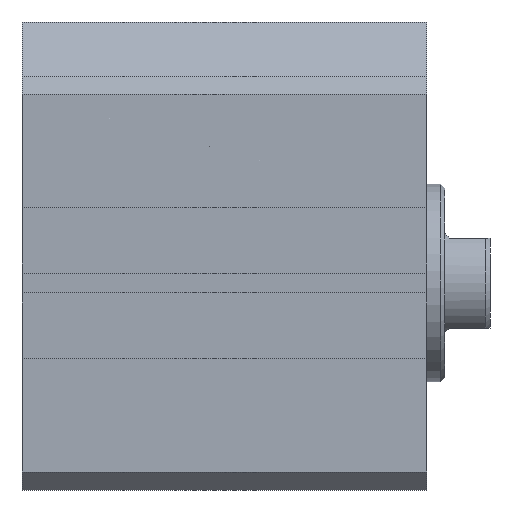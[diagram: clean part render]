
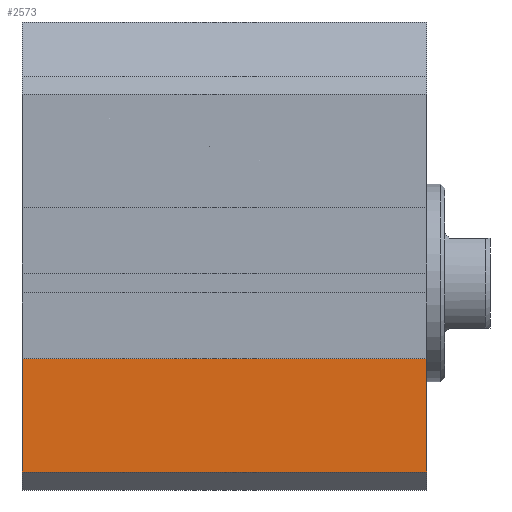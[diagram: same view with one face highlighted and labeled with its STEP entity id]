
A CAD part, left-side view. The second image highlights one B-rep face of the part: STEP entity #2573.
In plain terms, the highlighted planar face has unit normal (-1, 0, 0).
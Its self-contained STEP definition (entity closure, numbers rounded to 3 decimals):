
#76=LINE('',#3570,#228);
#77=LINE('',#3573,#229);
#78=LINE('',#3575,#230);
#79=LINE('',#3577,#231);
#228=VECTOR('',#3048,1000.);
#229=VECTOR('',#3049,1000.);
#230=VECTOR('',#3050,1000.);
#231=VECTOR('',#3051,1000.);
#487=ORIENTED_EDGE('',*,*,#915,.F.);
#488=ORIENTED_EDGE('',*,*,#916,.T.);
#489=ORIENTED_EDGE('',*,*,#917,.F.);
#490=ORIENTED_EDGE('',*,*,#918,.F.);
#915=EDGE_CURVE('',#1135,#1136,#76,.T.);
#916=EDGE_CURVE('',#1135,#1137,#77,.T.);
#917=EDGE_CURVE('',#1138,#1137,#78,.T.);
#918=EDGE_CURVE('',#1136,#1138,#79,.T.);
#1135=VERTEX_POINT('',#3571);
#1136=VERTEX_POINT('',#3572);
#1137=VERTEX_POINT('',#3574);
#1138=VERTEX_POINT('',#3576);
#1389=EDGE_LOOP('',(#487,#488,#489,#490));
#1577=FACE_BOUND('',#1389,.T.);
#1722=PLANE('',#2750);
#2573=ADVANCED_FACE('',(#1577),#1722,.T.);
#2750=AXIS2_PLACEMENT_3D('',#3569,#3046,#3047);
#3046=DIRECTION('',(-1.,0.,0.));
#3047=DIRECTION('',(0.,0.,1.));
#3048=DIRECTION('',(0.,0.,1.));
#3049=DIRECTION('',(0.,-1.,0.));
#3050=DIRECTION('',(0.,0.,-1.));
#3051=DIRECTION('',(0.,-1.,0.));
#3569=CARTESIAN_POINT('',(-23.,22.5,-23.));
#3570=CARTESIAN_POINT('',(-23.,22.5,0.));
#3571=CARTESIAN_POINT('',(-23.,22.5,-21.));
#3572=CARTESIAN_POINT('',(-23.,22.5,-8.4));
#3573=CARTESIAN_POINT('',(-23.,22.5,-21.));
#3574=CARTESIAN_POINT('',(-23.,-22.5,-21.));
#3575=CARTESIAN_POINT('',(-23.,-22.5,-23.));
#3576=CARTESIAN_POINT('',(-23.,-22.5,-8.4));
#3577=CARTESIAN_POINT('',(-23.,22.5,-8.4));
